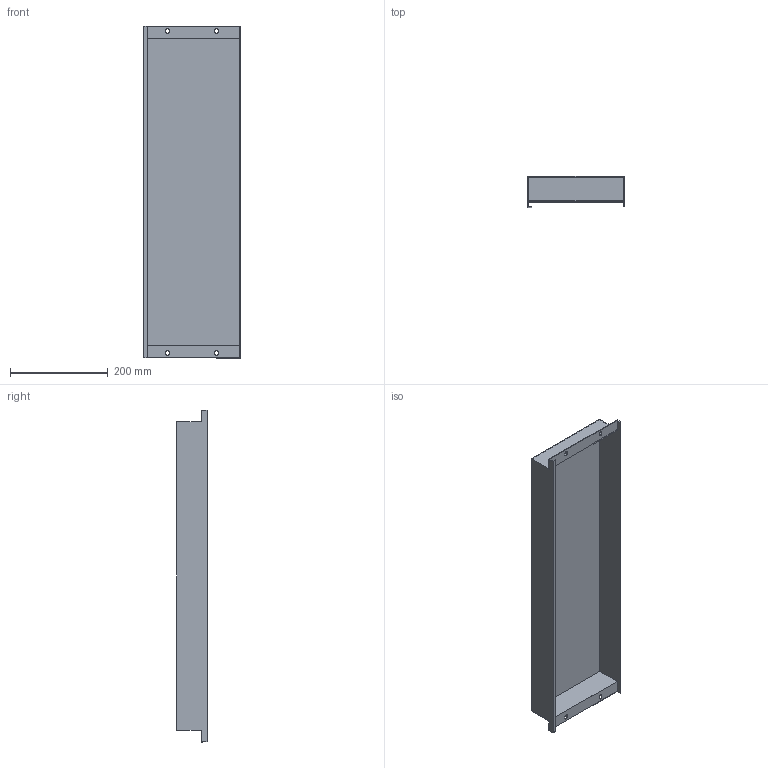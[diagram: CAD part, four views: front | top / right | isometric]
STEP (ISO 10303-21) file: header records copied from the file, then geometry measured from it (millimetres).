
FILE_DESCRIPTION (( 'STEP AP214' ), '1' );
FILE_NAME ('FO-00-PVSU-020-080 Ïëàñòðîí âíóòðåííèé óãëóáëåííûé 200õ800õ50.STEP', '2025-08-26T13:48:31', ( '' ), ( '' ), 'SwSTEP 2.0', 'SolidWorks 2023', '' );
FILE_SCHEMA (( 'AUTOMOTIVE_DESIGN' ));
Length unit declared in the file: millimetre
Products named in the file (1): FO-00-PVSU-020-080 Пластрон внутренний углубленный 200х800х50
Bounding box: 198 x 62.5 x 679 mm (x, y, z)
Volume: 328707.9 mm3; surface area: 472268.2 mm2
Topology: 1 solids, 1 shells, 46 faces, 132 edges, 88 vertices
Faces by surface type: plane 34, cylinder 12
Entity records: 1539 total; most frequent: CARTESIAN_POINT 267, ORIENTED_EDGE 264, DIRECTION 250, EDGE_CURVE 132, VECTOR 108, LINE 108, VERTEX_POINT 88, AXIS2_PLACEMENT_3D 71
